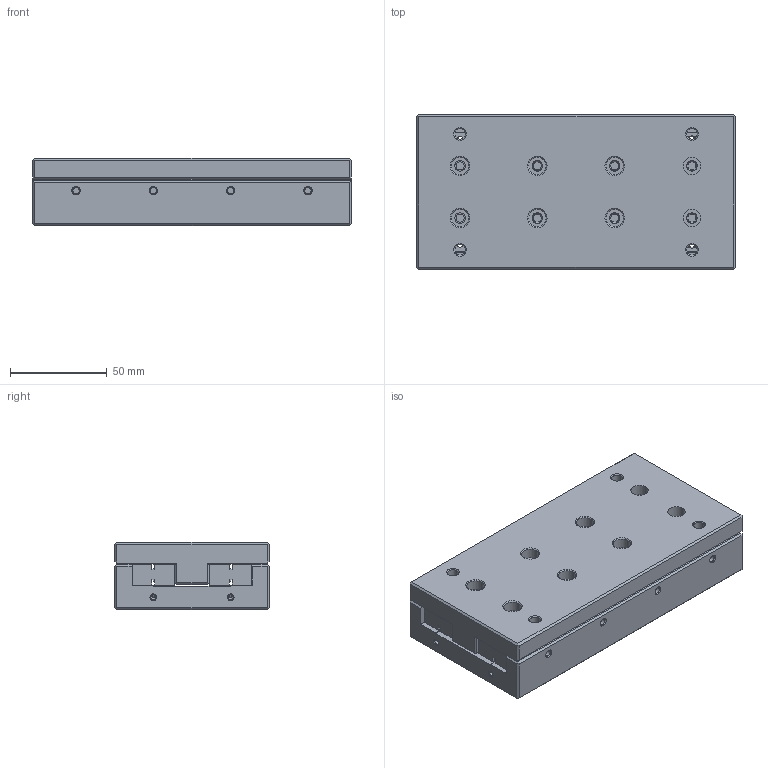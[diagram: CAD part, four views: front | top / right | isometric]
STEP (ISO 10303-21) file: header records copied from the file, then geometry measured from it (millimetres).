
FILE_DESCRIPTION((''),'2;1');
FILE_NAME('CRU4165_ASM','2017-01-24T',('Administrator'),(''),'PRO/ENGINEER BY PARAMETRIC TECHNOLOGY CORPORATION, 2013150','PRO/ENGINEER BY PARAMETRIC TECHNOLOGY CORPORATION, 2013150','');
FILE_SCHEMA(('CONFIG_CONTROL_DESIGN'));
Length unit declared in the file: millimetre
Products named in the file (4): CRU4165-01; CRU4165-GV4160; CRU4165-02; CRU4165_ASM
Assembly tree (4 placements, depth 2):
  CRU4165_ASM
    CRU4165-01
    CRU4165-GV4160  x2
    CRU4165-02
Bounding box: 165 x 80 x 35 mm (x, y, z)
Volume: 424336.9 mm3; surface area: 111009.7 mm2
Topology: 4 solids, 4 shells, 507 faces, 1210 edges, 737 vertices
Faces by surface type: cone 184, cylinder 180, plane 143
Entity records: 12556 total; most frequent: DIRECTION 2330, CARTESIAN_POINT 2082, ORIENTED_EDGE 2028, EDGE_CURVE 1014, AXIS2_PLACEMENT_3D 887, VERTEX_POINT 621, VECTOR 556, LINE 556
